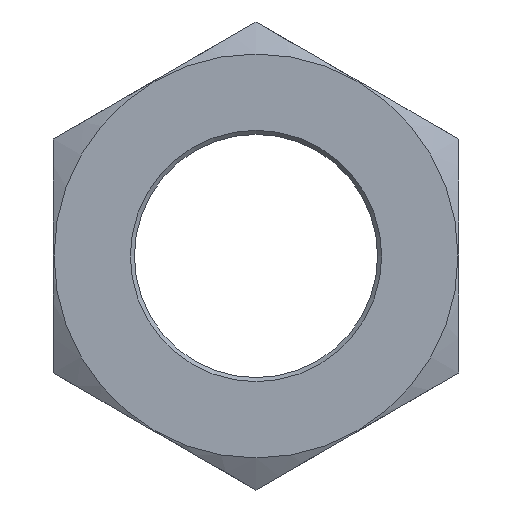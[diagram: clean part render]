
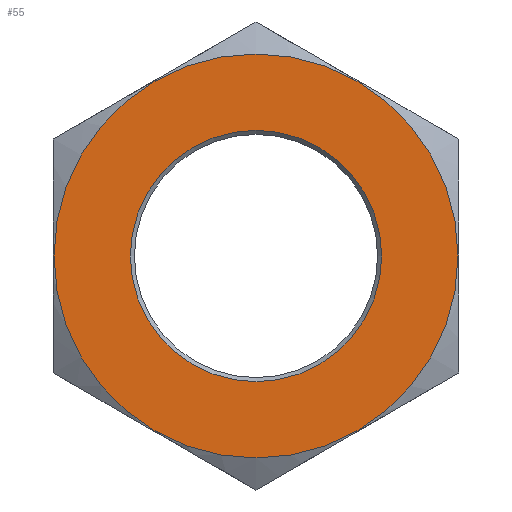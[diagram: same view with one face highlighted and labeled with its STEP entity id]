
A CAD part, left-side view. The second image highlights one B-rep face of the part: STEP entity #55.
In plain terms, the highlighted planar face has unit normal (-1, 0, 0).
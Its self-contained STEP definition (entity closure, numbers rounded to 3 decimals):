
#55 = ADVANCED_FACE( '', ( #116, #117 ), #118, .T. );
#116 = FACE_OUTER_BOUND( '', #185, .T. );
#117 = FACE_BOUND( '', #186, .T. );
#118 = PLANE( '', #187 );
#185 = EDGE_LOOP( '', ( #279 ) );
#186 = EDGE_LOOP( '', ( #280 ) );
#187 = AXIS2_PLACEMENT_3D( '', #281, #282, #283 );
#279 = ORIENTED_EDGE( '', *, *, #375, .T. );
#280 = ORIENTED_EDGE( '', *, *, #376, .T. );
#281 = CARTESIAN_POINT( '', ( -29., -25., -14.434 ) );
#282 = DIRECTION( '', ( -1., 0., 0. ) );
#283 = DIRECTION( '', ( 0., -1., 0. ) );
#375 = EDGE_CURVE( '', #436, #436, #437, .T. );
#376 = EDGE_CURVE( '', #438, #438, #439, .F. );
#436 = VERTEX_POINT( '', #638 );
#437 = CIRCLE( '', #639, 24.918 );
#438 = VERTEX_POINT( '', #640 );
#439 = CIRCLE( '', #641, 15.5 );
#638 = CARTESIAN_POINT( '', ( -29., 0., 24.918 ) );
#639 = AXIS2_PLACEMENT_3D( '', #708, #709, #710 );
#640 = CARTESIAN_POINT( '', ( -29., -15.5, 0. ) );
#641 = AXIS2_PLACEMENT_3D( '', #711, #712, #713 );
#708 = CARTESIAN_POINT( '', ( -29., 0., 0. ) );
#709 = DIRECTION( '', ( -1., 0., 0. ) );
#710 = DIRECTION( '', ( 0., 0., 1. ) );
#711 = CARTESIAN_POINT( '', ( -29., 0., 0. ) );
#712 = DIRECTION( '', ( -1., 0., 0. ) );
#713 = DIRECTION( '', ( 0., -1., 0. ) );
